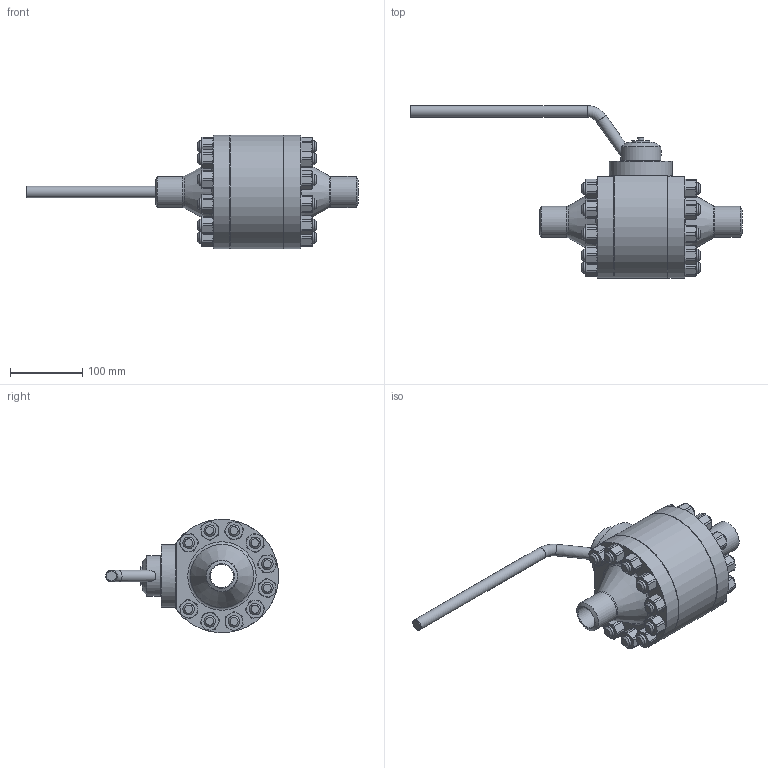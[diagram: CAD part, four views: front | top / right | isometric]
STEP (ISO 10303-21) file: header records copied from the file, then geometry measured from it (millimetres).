
FILE_DESCRIPTION(('STEP AP203'), '1');
FILE_NAME('ZARDP 032.250.40.P.stp', '2013-12-06T06:21:07', ('Øèøêî'), ('ÎÎÎ ÈÊ Ýíåðïðåä-ßðäîñ'), 'ASCON STEP Converter 1.3', 'Kompas 3D', '');
FILE_SCHEMA(('CONFIG_CONTROL_DESIGN','SUPPORT_RESOURCE_SCHEMA'));
Length unit declared in the file: millimetre
Products named in the file (1): 69
Bounding box: 459.31 x 239.21 x 156.63 mm (x, y, z)
Volume: 2392766.5 mm3; surface area: 314518.7 mm2
Topology: 1 solids, 31 shells, 1073 faces, 2562 edges, 1661 vertices
Faces by surface type: plane 460, cone 308, cylinder 300, torus 5
Full cylindrical faces by diameter (mm): 4.134 x1, 5 x1, 5.3 x1, 8 x10, 8.376 x8, 8.5 x1, 10 x8, 11 x8, 13.835 x20, 16 x10, 16.01 x20, 17 x8, 18 x20, 19.124 x20, 20.5 x1, 24.8 x1, 25 x2, 32 x2, 34.8 x1, 35 x1, 35.5 x1, 43 x2, 56 x1, 80 x1, 87 x1
Entity records: 40316 total; most frequent: CARTESIAN_POINT 15573, DIRECTION 5120, ORIENTED_EDGE 5108, EDGE_CURVE 2554, AXIS2_PLACEMENT_3D 2073, VERTEX_POINT 1661, EDGE_LOOP 1221, ADVANCED_FACE 1073
